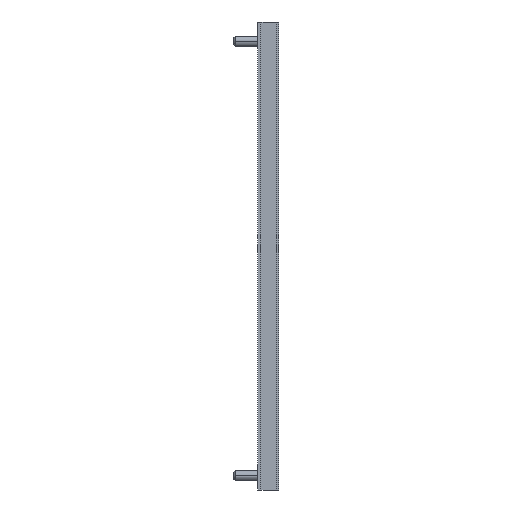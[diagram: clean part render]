
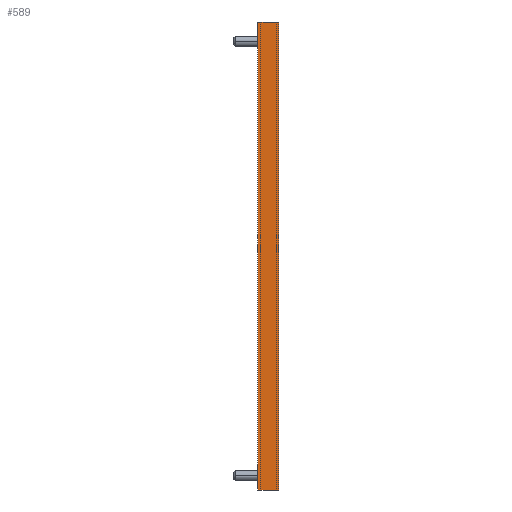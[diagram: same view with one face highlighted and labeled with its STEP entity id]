
A CAD part, left-side view. The second image highlights one B-rep face of the part: STEP entity #589.
In plain terms, the highlighted planar face has unit normal (-1, 0, 0).
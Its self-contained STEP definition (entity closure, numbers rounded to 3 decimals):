
#330 = VECTOR ( 'NONE', #2885, 1000. ) ;
#563 = VERTEX_POINT ( 'NONE', #1378 ) ;
#564 = CARTESIAN_POINT ( 'NONE',  ( -8., 12.5, 279. ) ) ;
#580 = EDGE_LOOP ( 'NONE', ( #4211, #2384, #1365, #1586, #1812, #1027, #2380, #3041 ) ) ;
#589 = ADVANCED_FACE ( 'NONE', ( #2060 ), #3865, .T. ) ;
#616 = VERTEX_POINT ( 'NONE', #4176 ) ;
#705 = CARTESIAN_POINT ( 'NONE',  ( -8., 0., 279. ) ) ;
#709 = EDGE_CURVE ( 'NONE', #616, #4253, #874, .T. ) ;
#857 = VERTEX_POINT ( 'NONE', #910 ) ;
#874 = LINE ( 'NONE', #564, #2835 ) ;
#910 = CARTESIAN_POINT ( 'NONE',  ( -8., 9.3, 279. ) ) ;
#948 = VECTOR ( 'NONE', #4024, 1000. ) ;
#1027 = ORIENTED_EDGE ( 'NONE', *, *, #4446, .T. ) ;
#1033 = LINE ( 'NONE', #2745, #2842 ) ;
#1173 = EDGE_CURVE ( 'NONE', #3648, #857, #3064, .T. ) ;
#1303 = CARTESIAN_POINT ( 'NONE',  ( -8., 0., 0. ) ) ;
#1365 = ORIENTED_EDGE ( 'NONE', *, *, #1844, .T. ) ;
#1378 = CARTESIAN_POINT ( 'NONE',  ( -8., 9.3, 0. ) ) ;
#1408 = CARTESIAN_POINT ( 'NONE',  ( -8., 0., 279. ) ) ;
#1425 = VECTOR ( 'NONE', #4424, 1000. ) ;
#1534 = LINE ( 'NONE', #2564, #330 ) ;
#1586 = ORIENTED_EDGE ( 'NONE', *, *, #1920, .T. ) ;
#1695 = CARTESIAN_POINT ( 'NONE',  ( -8., 0., 279. ) ) ;
#1752 = DIRECTION ( 'NONE',  ( 0., 1., 0. ) ) ;
#1812 = ORIENTED_EDGE ( 'NONE', *, *, #3884, .T. ) ;
#1844 = EDGE_CURVE ( 'NONE', #563, #3912, #3030, .T. ) ;
#1920 = EDGE_CURVE ( 'NONE', #3912, #2131, #1033, .T. ) ;
#1975 = CARTESIAN_POINT ( 'NONE',  ( -8., 12.5, 279. ) ) ;
#1994 = LINE ( 'NONE', #1975, #3755 ) ;
#2054 = DIRECTION ( 'NONE',  ( 0., -1., 0. ) ) ;
#2060 = FACE_OUTER_BOUND ( 'NONE', #580, .T. ) ;
#2131 = VERTEX_POINT ( 'NONE', #2863 ) ;
#2227 = VECTOR ( 'NONE', #1752, 1000. ) ;
#2380 = ORIENTED_EDGE ( 'NONE', *, *, #1173, .T. ) ;
#2384 = ORIENTED_EDGE ( 'NONE', *, *, #4248, .T. ) ;
#2553 = EDGE_CURVE ( 'NONE', #4253, #857, #1994, .T. ) ;
#2564 = CARTESIAN_POINT ( 'NONE',  ( -8., 0., 0. ) ) ;
#2674 = VERTEX_POINT ( 'NONE', #705 ) ;
#2686 = DIRECTION ( 'NONE',  ( 0., -1., 0. ) ) ;
#2745 = CARTESIAN_POINT ( 'NONE',  ( -8., 0., 0. ) ) ;
#2814 = CARTESIAN_POINT ( 'NONE',  ( -8., 3.2, 279. ) ) ;
#2835 = VECTOR ( 'NONE', #3654, 1000. ) ;
#2842 = VECTOR ( 'NONE', #2054, 1000. ) ;
#2863 = CARTESIAN_POINT ( 'NONE',  ( -8., 0., 0. ) ) ;
#2885 = DIRECTION ( 'NONE',  ( 0., -1., 0. ) ) ;
#3030 = LINE ( 'NONE', #1303, #1425 ) ;
#3041 = ORIENTED_EDGE ( 'NONE', *, *, #2553, .F. ) ;
#3043 = CARTESIAN_POINT ( 'NONE',  ( -8., 3.2, 0. ) ) ;
#3064 = LINE ( 'NONE', #4454, #948 ) ;
#3131 = DIRECTION ( 'NONE',  ( -1., 0., 0. ) ) ;
#3244 = VECTOR ( 'NONE', #4125, 1000. ) ;
#3277 = CARTESIAN_POINT ( 'NONE',  ( -8., 12.5, 279. ) ) ;
#3373 = AXIS2_PLACEMENT_3D ( 'NONE', #1695, #3131, #4470 ) ;
#3648 = VERTEX_POINT ( 'NONE', #2814 ) ;
#3654 = DIRECTION ( 'NONE',  ( 0., 0., 1. ) ) ;
#3717 = CARTESIAN_POINT ( 'NONE',  ( -8., 0., 279. ) ) ;
#3740 = LINE ( 'NONE', #3717, #3244 ) ;
#3755 = VECTOR ( 'NONE', #2686, 1000. ) ;
#3865 = PLANE ( 'NONE',  #3373 ) ;
#3884 = EDGE_CURVE ( 'NONE', #2131, #2674, #3740, .T. ) ;
#3912 = VERTEX_POINT ( 'NONE', #3043 ) ;
#4024 = DIRECTION ( 'NONE',  ( 0., 1., 0. ) ) ;
#4125 = DIRECTION ( 'NONE',  ( 0., 0., 1. ) ) ;
#4176 = CARTESIAN_POINT ( 'NONE',  ( -8., 12.5, 0. ) ) ;
#4211 = ORIENTED_EDGE ( 'NONE', *, *, #709, .F. ) ;
#4248 = EDGE_CURVE ( 'NONE', #616, #563, #1534, .T. ) ;
#4253 = VERTEX_POINT ( 'NONE', #3277 ) ;
#4424 = DIRECTION ( 'NONE',  ( 0., -1., 0. ) ) ;
#4446 = EDGE_CURVE ( 'NONE', #2674, #3648, #4498, .T. ) ;
#4454 = CARTESIAN_POINT ( 'NONE',  ( -8., 0., 279. ) ) ;
#4470 = DIRECTION ( 'NONE',  ( 0., 0., 1. ) ) ;
#4498 = LINE ( 'NONE', #1408, #2227 ) ;
